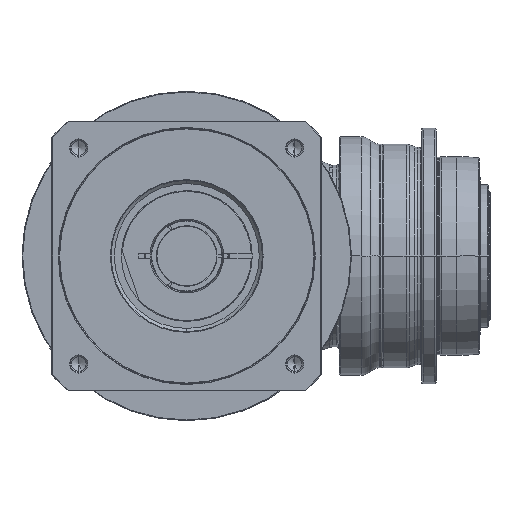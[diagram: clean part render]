
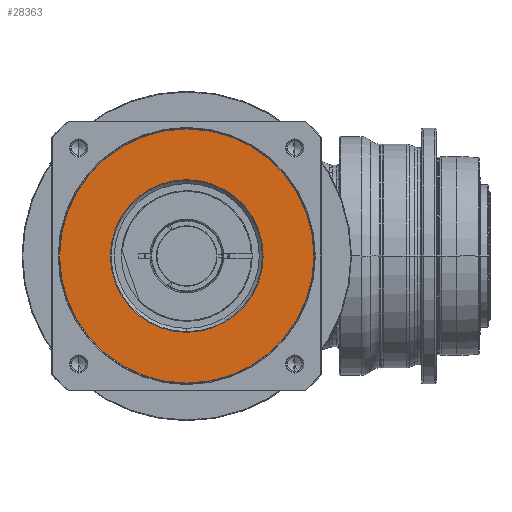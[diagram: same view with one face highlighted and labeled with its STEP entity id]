
A CAD part, front view. The second image highlights one B-rep face of the part: STEP entity #28363.
In plain terms, the highlighted planar face has unit normal (0, -1, 0) as drawn and (0, 0, 1) by its records, which use the part's own axes.
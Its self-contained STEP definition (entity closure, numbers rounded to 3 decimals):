
#27048=CARTESIAN_POINT('',(0.,0.,36.));
#27049=DIRECTION('',(0.,0.,-1.));
#27050=DIRECTION('',(0.,-1.,0.));
#27051=AXIS2_PLACEMENT_3D('',#27048,#27049,#27050);
#27053=CARTESIAN_POINT('',(0.,0.,36.));
#27054=DIRECTION('',(0.,0.,-1.));
#27055=DIRECTION('',(0.,1.,0.));
#27056=AXIS2_PLACEMENT_3D('',#27053,#27054,#27055);
#27058=CARTESIAN_POINT('',(0.,0.,
36.));
#27059=DIRECTION('',(0.,0.,-1.));
#27060=DIRECTION('',(1.,0.,0.));
#27061=AXIS2_PLACEMENT_3D('',#27058,#27059,#27060);
#27063=CARTESIAN_POINT('',(0.,0.,36.));
#27064=DIRECTION('',(0.,0.,-1.));
#27065=DIRECTION('',(-1.,0.,0.));
#27066=AXIS2_PLACEMENT_3D('',#27063,#27064,#27065);
#27647=CARTESIAN_POINT('',(0.,-89.5,36.));
#27648=CARTESIAN_POINT('',(0.,89.5,36.));
#27649=VERTEX_POINT('',#27647);
#27650=VERTEX_POINT('',#27648);
#27683=CARTESIAN_POINT('',(53.75,0.,36.));
#27684=CARTESIAN_POINT('',(-53.75,0.,
36.));
#27685=VERTEX_POINT('',#27683);
#27686=VERTEX_POINT('',#27684);
#28347=CARTESIAN_POINT('',(0.,0.,36.));
#28348=DIRECTION('',(0.,0.,-1.));
#28349=DIRECTION('',(0.,-1.,0.));
#28350=AXIS2_PLACEMENT_3D('',#28347,#28348,#28349);
#28351=PLANE('',#28350);
#28353=ORIENTED_EDGE('',*,*,#28352,.T.);
#28354=ORIENTED_EDGE('',*,*,#28337,.T.);
#28355=EDGE_LOOP('',(#28353,#28354));
#28356=FACE_OUTER_BOUND('',#28355,.F.);
#28358=ORIENTED_EDGE('',*,*,#28357,.F.);
#28360=ORIENTED_EDGE('',*,*,#28359,.F.);
#28361=EDGE_LOOP('',(#28358,#28360));
#28362=FACE_BOUND('',#28361,.F.);
#28363=ADVANCED_FACE('',(#28356,#28362),#28351,.F.);
#27052=CIRCLE('',#27051,89.5);
#27057=CIRCLE('',#27056,89.5);
#27062=CIRCLE('',#27061,53.75);
#27067=CIRCLE('',#27066,53.75);
#28337=EDGE_CURVE('',#27650,#27649,#27057,.T.);
#28352=EDGE_CURVE('',#27649,#27650,#27052,.T.);
#28357=EDGE_CURVE('',#27685,#27686,#27062,.T.);
#28359=EDGE_CURVE('',#27686,#27685,#27067,.T.);
